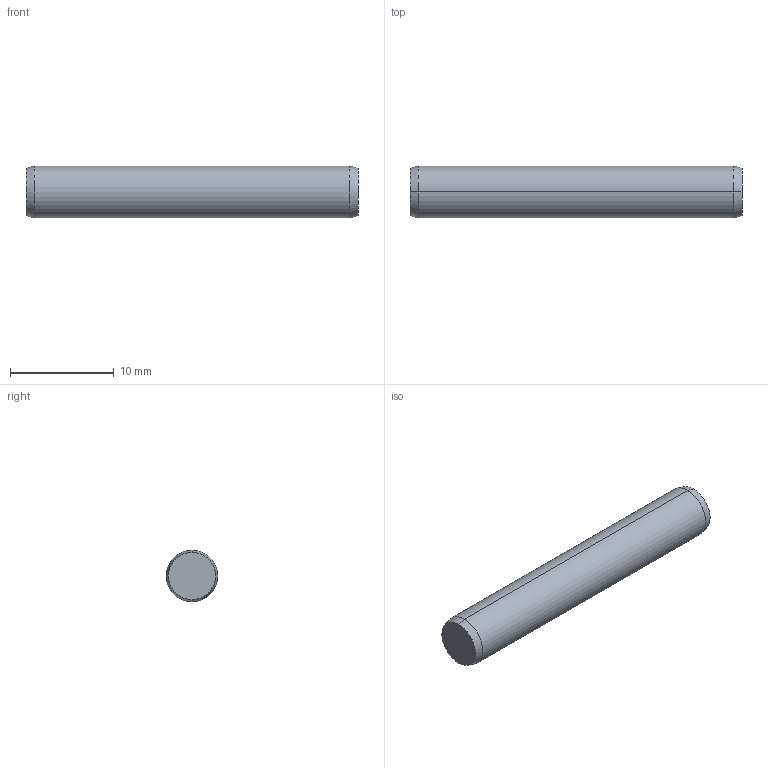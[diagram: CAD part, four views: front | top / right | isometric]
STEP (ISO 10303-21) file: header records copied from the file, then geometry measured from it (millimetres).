
FILE_DESCRIPTION (( 'STEP AP203' ), '1' );
FILE_NAME ('P1206.050-032.step', '2017-06-14T08:16:59', ( 'User' ), ( '' ), 'SwSTEP 2.0', 'SolidWorks 2009', '' );
FILE_SCHEMA (( 'CONFIG_CONTROL_DESIGN' ));
Length unit declared in the file: millimetre
Products named in the file (1): P1206.050-032
Bounding box: 32 x 5 x 5 mm (x, y, z)
Volume: 625.7 mm3; surface area: 535.3 mm2
Topology: 1 solids, 1 shells, 8 faces, 14 edges, 8 vertices
Faces by surface type: cone 4, cylinder 2, plane 2
Entity records: 271 total; most frequent: DIRECTION 40, CARTESIAN_POINT 31, ORIENTED_EDGE 28, AXIS2_PLACEMENT_3D 17, EDGE_CURVE 14, EDGE_LOOP 8, VERTEX_POINT 8, ADVANCED_FACE 8
